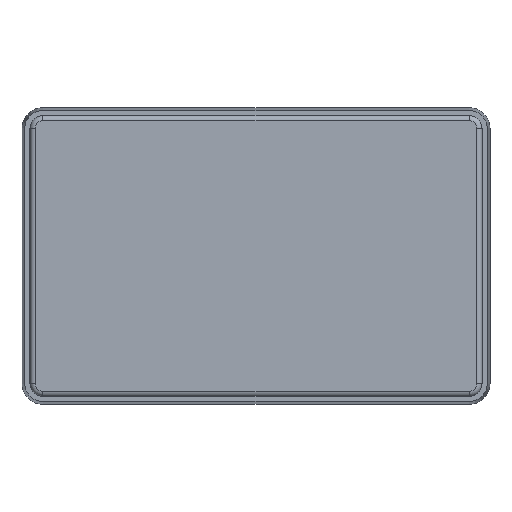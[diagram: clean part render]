
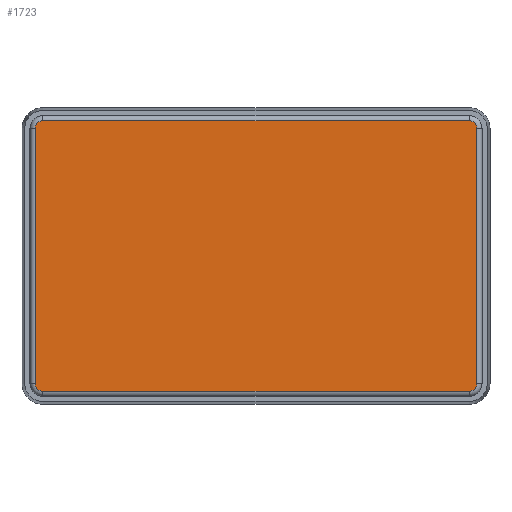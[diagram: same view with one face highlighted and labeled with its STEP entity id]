
A CAD part, front view. The second image highlights one B-rep face of the part: STEP entity #1723.
In plain terms, the highlighted planar face has unit normal (0, -1, 0).
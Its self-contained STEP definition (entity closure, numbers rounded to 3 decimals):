
#34 = CARTESIAN_POINT ( 'NONE',  ( -42.975, -2.5, -24.8 ) ) ;
#361 = CIRCLE ( 'NONE', #2939, 1.5 ) ;
#389 = DIRECTION ( 'NONE',  ( 0., 0., -1. ) ) ;
#424 = CIRCLE ( 'NONE', #2074, 1.5 ) ;
#450 = ORIENTED_EDGE ( 'NONE', *, *, #4779, .T. ) ;
#634 = CARTESIAN_POINT ( 'NONE',  ( 41.475, -2.5, 26.3 ) ) ;
#649 = EDGE_CURVE ( 'NONE', #5041, #7593, #1522, .T. ) ;
#948 = LINE ( 'NONE', #7335, #3055 ) ;
#962 = VERTEX_POINT ( 'NONE', #2291 ) ;
#1012 = CARTESIAN_POINT ( 'NONE',  ( -41.475, -2.5, -24.8 ) ) ;
#1044 = CARTESIAN_POINT ( 'NONE',  ( 42.975, -2.5, -24.8 ) ) ;
#1046 = EDGE_CURVE ( 'NONE', #5538, #5317, #361, .T. ) ;
#1112 = ORIENTED_EDGE ( 'NONE', *, *, #649, .T. ) ;
#1340 = VECTOR ( 'NONE', #4381, 1000. ) ;
#1512 = DIRECTION ( 'NONE',  ( 0., 0., -1. ) ) ;
#1522 = CIRCLE ( 'NONE', #5790, 1.5 ) ;
#1723 = ADVANCED_FACE ( 'NONE', ( #5339 ), #4574, .T. ) ;
#1881 = LINE ( 'NONE', #6401, #4858 ) ;
#1902 = EDGE_CURVE ( 'NONE', #962, #4103, #948, .T. ) ;
#2074 = AXIS2_PLACEMENT_3D ( 'NONE', #1012, #6372, #389 ) ;
#2171 = VERTEX_POINT ( 'NONE', #1044 ) ;
#2291 = CARTESIAN_POINT ( 'NONE',  ( -41.475, -2.5, -26.3 ) ) ;
#2413 = AXIS2_PLACEMENT_3D ( 'NONE', #7387, #3565, #8035 ) ;
#2478 = AXIS2_PLACEMENT_3D ( 'NONE', #3927, #7768, #3297 ) ;
#2566 = VERTEX_POINT ( 'NONE', #34 ) ;
#2614 = DIRECTION ( 'NONE',  ( 0., 0., -1. ) ) ;
#2632 = DIRECTION ( 'NONE',  ( 0., 0., -1. ) ) ;
#2725 = CARTESIAN_POINT ( 'NONE',  ( -41.475, -2.5, 26.3 ) ) ;
#2800 = DIRECTION ( 'NONE',  ( 0., -1., 0. ) ) ;
#2883 = CARTESIAN_POINT ( 'NONE',  ( -41.475, -2.5, 26.3 ) ) ;
#2939 = AXIS2_PLACEMENT_3D ( 'NONE', #7688, #7064, #2632 ) ;
#3055 = VECTOR ( 'NONE', #6618, 1000. ) ;
#3297 = DIRECTION ( 'NONE',  ( 0., 0., -1. ) ) ;
#3558 = EDGE_CURVE ( 'NONE', #2171, #5041, #4729, .T. ) ;
#3565 = DIRECTION ( 'NONE',  ( 0., -1., 0. ) ) ;
#3729 = CARTESIAN_POINT ( 'NONE',  ( 42.975, -2.5, 24.8 ) ) ;
#3847 = VECTOR ( 'NONE', #5243, 1000. ) ;
#3897 = CARTESIAN_POINT ( 'NONE',  ( -42.975, -2.5, 24.8 ) ) ;
#3922 = EDGE_CURVE ( 'NONE', #2566, #962, #424, .T. ) ;
#3927 = CARTESIAN_POINT ( 'NONE',  ( -41.475, -2.5, 24.8 ) ) ;
#4103 = VERTEX_POINT ( 'NONE', #6953 ) ;
#4332 = ORIENTED_EDGE ( 'NONE', *, *, #1046, .T. ) ;
#4381 = DIRECTION ( 'NONE',  ( 0., 0., 1. ) ) ;
#4574 = PLANE ( 'NONE',  #2478 ) ;
#4666 = EDGE_CURVE ( 'NONE', #5317, #2566, #1881, .T. ) ;
#4729 = LINE ( 'NONE', #3729, #1340 ) ;
#4779 = EDGE_CURVE ( 'NONE', #7593, #5538, #7253, .T. ) ;
#4858 = VECTOR ( 'NONE', #2614, 1000. ) ;
#5010 = CIRCLE ( 'NONE', #2413, 1.5 ) ;
#5041 = VERTEX_POINT ( 'NONE', #8089 ) ;
#5124 = ORIENTED_EDGE ( 'NONE', *, *, #3922, .T. ) ;
#5243 = DIRECTION ( 'NONE',  ( -1., 0., 0. ) ) ;
#5317 = VERTEX_POINT ( 'NONE', #3897 ) ;
#5339 = FACE_OUTER_BOUND ( 'NONE', #5714, .T. ) ;
#5493 = ORIENTED_EDGE ( 'NONE', *, *, #4666, .T. ) ;
#5538 = VERTEX_POINT ( 'NONE', #2883 ) ;
#5592 = ORIENTED_EDGE ( 'NONE', *, *, #3558, .T. ) ;
#5714 = EDGE_LOOP ( 'NONE', ( #5493, #5124, #6505, #6869, #5592, #1112, #450, #4332 ) ) ;
#5790 = AXIS2_PLACEMENT_3D ( 'NONE', #7260, #2800, #1512 ) ;
#6372 = DIRECTION ( 'NONE',  ( 0., -1., 0. ) ) ;
#6401 = CARTESIAN_POINT ( 'NONE',  ( -42.975, -2.5, -24.8 ) ) ;
#6505 = ORIENTED_EDGE ( 'NONE', *, *, #1902, .T. ) ;
#6618 = DIRECTION ( 'NONE',  ( 1., 0., 0. ) ) ;
#6869 = ORIENTED_EDGE ( 'NONE', *, *, #7295, .T. ) ;
#6953 = CARTESIAN_POINT ( 'NONE',  ( 41.475, -2.5, -26.3 ) ) ;
#7064 = DIRECTION ( 'NONE',  ( 0., -1., 0. ) ) ;
#7253 = LINE ( 'NONE', #2725, #3847 ) ;
#7260 = CARTESIAN_POINT ( 'NONE',  ( 41.475, -2.5, 24.8 ) ) ;
#7295 = EDGE_CURVE ( 'NONE', #4103, #2171, #5010, .T. ) ;
#7335 = CARTESIAN_POINT ( 'NONE',  ( 41.475, -2.5, -26.3 ) ) ;
#7387 = CARTESIAN_POINT ( 'NONE',  ( 41.475, -2.5, -24.8 ) ) ;
#7593 = VERTEX_POINT ( 'NONE', #634 ) ;
#7688 = CARTESIAN_POINT ( 'NONE',  ( -41.475, -2.5, 24.8 ) ) ;
#7768 = DIRECTION ( 'NONE',  ( 0., -1., 0. ) ) ;
#8035 = DIRECTION ( 'NONE',  ( 0., 0., -1. ) ) ;
#8089 = CARTESIAN_POINT ( 'NONE',  ( 42.975, -2.5, 24.8 ) ) ;
